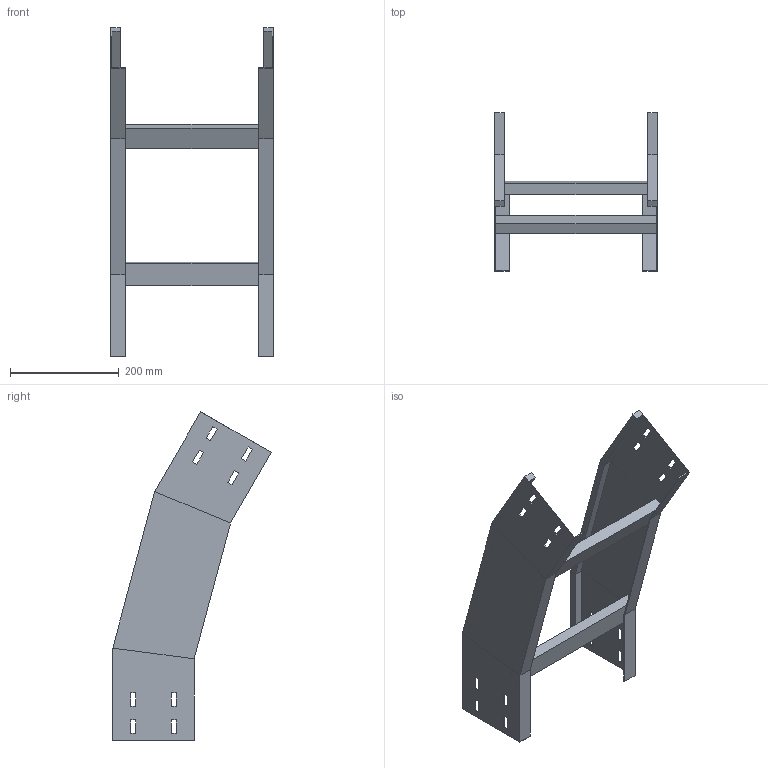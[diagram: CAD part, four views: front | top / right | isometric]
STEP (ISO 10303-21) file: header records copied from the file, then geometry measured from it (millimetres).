
FILE_DESCRIPTION (( 'STEP AP214' ), '1' );
FILE_NAME ('35J5F300.step', '2025-02-21T16:21:28', ( '' ), ( '' ), 'SwSTEP 2.0', 'SolidWorks 2023', '' );
FILE_SCHEMA (( 'AUTOMOTIVE_DESIGN' ));
Length unit declared in the file: millimetre
Products named in the file (3): 35J5F300; TRAVERSINO_300; LONGH.DISCESA_30°_H150_R500
Assembly tree (4 placements, depth 2):
  35J5F300
    LONGH.DISCESA_30°_H150_R500  x2
    TRAVERSINO_300  x2
Bounding box: 300 x 292.03 x 605.08 mm (x, y, z)
Volume: 1131145.5 mm3; surface area: 532483.3 mm2
Topology: 4 solids, 4 shells, 128 faces, 328 edges, 208 vertices
Faces by surface type: plane 128
Entity records: 2016 total; most frequent: CARTESIAN_POINT 339, ORIENTED_EDGE 328, DIRECTION 306, VECTOR 164, LINE 164, EDGE_CURVE 164, VERTEX_POINT 104, EDGE_LOOP 80
